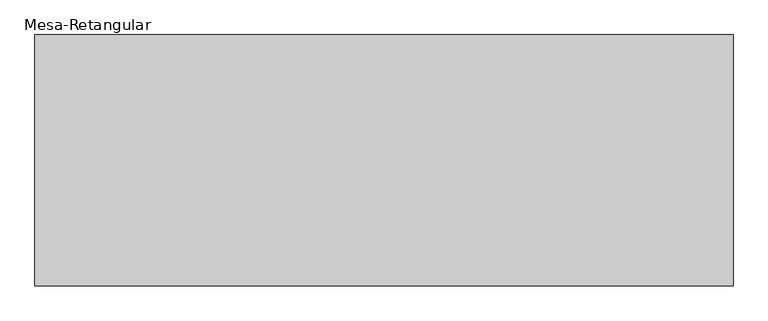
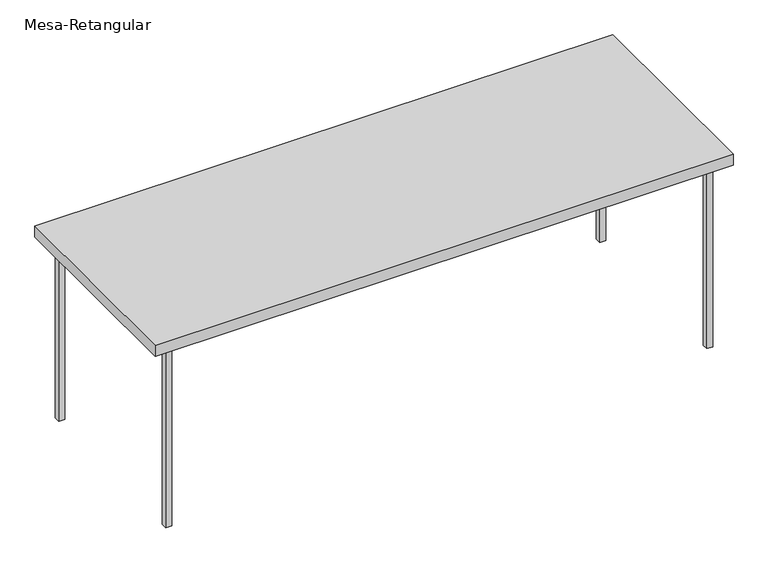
"""IFC4 building model written with IfcOpenShell, lengths in millimetres: furniture geometry, Mesa-Retangular : Mesa aço inox 250x90cm 88AL."""

from ifc_helpers import new_model, si_unit, frame, origin, origin_with_axes, place, context, project, spatial, polyline, outline, extrude, source, transform, mapped, element, save


def mesa_retangular_1830b1cb(model_context):
    return source(origin(), model_context, "Body", "SweptSolid", [
        extrude(outline(polyline([(-1182.8946305, 388.2145104), (-1182.8946305, 413.6145104), (-1157.4946305, 413.6145104), (-1157.4946305, 388.2145104), (-1182.8946305, 388.2145104)])), origin_with_axes(), (0.0, 0.0, 1.0), 829.2),
        extrude(outline(polyline([(-1182.8946305, -388.2145104), (-1157.4946305, -388.2145104), (-1157.4946305, -413.6145104), (-1182.8946305, -413.6145104), (-1182.8946305, -388.2145104)])), origin_with_axes(), (0.0, 0.0, 1.0), 829.2),
        extrude(outline(polyline([(1182.8946305, 388.2145104), (1157.4946305, 388.2145104), (1157.4946305, 413.6145104), (1182.8946305, 413.6145104), (1182.8946305, 388.2145104)])), origin_with_axes(), (0.0, 0.0, 1.0), 829.2),
        extrude(outline(polyline([(1182.8946305, -388.2145104), (1182.8946305, -413.6145104), (1157.4946305, -413.6145104), (1157.4946305, -388.2145104), (1182.8946305, -388.2145104)])), origin_with_axes(), (0.0, 0.0, 1.0), 829.2),
        extrude(outline(polyline([(1250.0, 450.0), (1250.0, -450.0), (-1250.0, -450.0), (-1250.0, 450.0), (1250.0, 450.0)])), frame((0.0, 0.0, 829.2), z_axis=(0.0, 0.0, 1.0), x_axis=(1.0, 0.0, 0.0)), (0.0, 0.0, 1.0), 50.8),
    ])


if __name__ == "__main__":
    model = new_model("IFC4")
    model_context = context("Model", 3, world=origin())
    ifc_project = project(units=[si_unit("LENGTHUNIT", "METRE", prefix="MILLI")], contexts=[model_context])
    site = spatial("IfcSite", under=ifc_project)
    building = spatial("IfcBuilding", under=site)
    placement = place(None, origin())
    mesa_retangular_shape = mesa_retangular_1830b1cb(model_context)
    element("IfcFurniture", 1, ObjectType="Mesa-Retangular : Mesa aço inox 250x90cm 88AL", at=placement, inside=building, context=model_context, shape_type="MappedRepresentation", body=[
        mapped(mesa_retangular_shape, transform((0.0, 0.0, 0.0), x_axis=(1.0, 0.0, 0.0), y_axis=(0.0, 1.0, 0.0), z_axis=(0.0, 0.0, 1.0))),
    ])
    save(model, "model.ifc")
